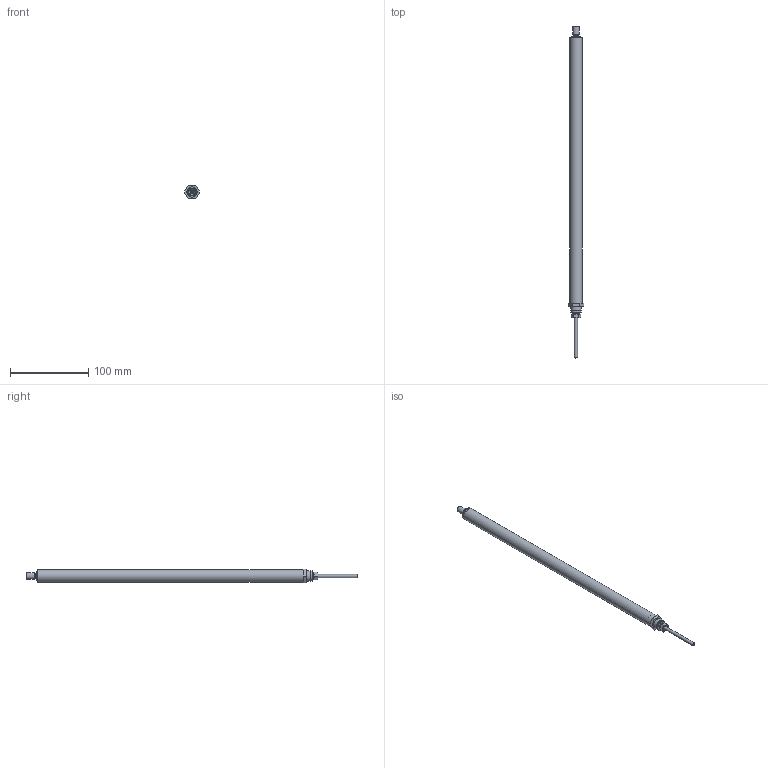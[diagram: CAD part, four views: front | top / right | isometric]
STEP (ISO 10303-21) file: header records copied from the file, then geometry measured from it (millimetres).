
FILE_DESCRIPTION(/* description */ ('Unknown'),/* implementation_level */ '2;1');
FILE_NAME(/* name */ '107.00133 Zylinder CG 1430_eingefahren',/* time_stamp */ '2018-06-15T14:51:39+02:00',/* author */ ('Unknown'),/* organization */ ('Unknown'),/* preprocessor_version */ 'ST-DEVELOPER v16.7',/* originating_system */ 'DEX',/* authorisation */ $);
FILE_SCHEMA (('AUTOMOTIVE_DESIGN {1 0 10303 214 3 1 1}'));
Length unit declared in the file: millimetre
Products named in the file (9): 107.00133; 121.00003; 142.00021; 125.00021; 115.00007_oa_0; 125.00031; 120.00023; 122.00001; 113.00002_70mm
Assembly tree (8 placements, depth 2):
  107.00133
    121.00003
    142.00021
    125.00021
    115.00007_oa_0
    125.00031
    120.00023
    122.00001
    113.00002_70mm
Bounding box: 19.63 x 423 x 17 mm (x, y, z)
Volume: 57278 mm3; surface area: 49959.4 mm2
Topology: 7 solids, 7 shells, 95 faces, 187 edges, 118 vertices
Faces by surface type: plane 38, cylinder 28, cone 23, torus 5, sphere 1
Full cylindrical faces by diameter (mm): 2.2 x1, 3.5 x1, 4 x1, 4.1 x1, 4.2 x1, 6 x1, 6.917 x2, 7.763 x2, 8 x4, 8.1 x3, 9 x1, 12 x2, 12.5 x1, 13 x2, 13.9 x2, 14 x2, 16 x1
Entity records: 2880 total; most frequent: DIRECTION 402, CARTESIAN_POINT 377, ORIENTED_EDGE 254, AXIS2_PLACEMENT_3D 183, FACE_BOUND 169, EDGE_LOOP 168, EDGE_CURVE 127, VERTEX_POINT 110
